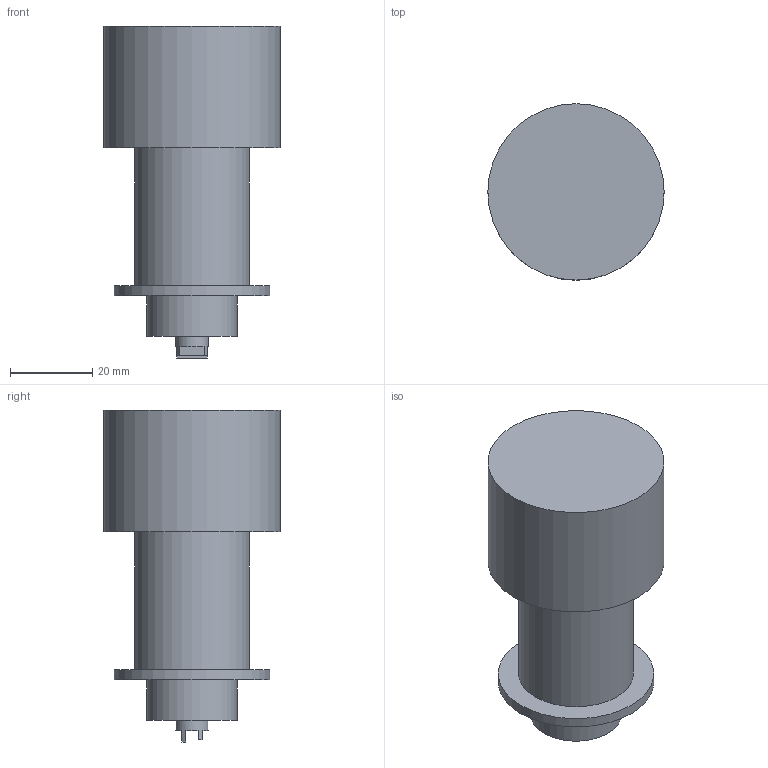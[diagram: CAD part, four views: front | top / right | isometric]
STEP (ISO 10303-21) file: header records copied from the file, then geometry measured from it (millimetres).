
FILE_DESCRIPTION( ( 'Unknown' ), '1' );
FILE_NAME( 'F:/方头/外形尺寸图/电机/3D/光栅电机/14mm光栅电机模型（国产编码器）Y.stp', 'Unknown', ( 'Unknown' ), ( 'Unknown' ), 'XStep 1.0', 'Unknown', ' ' );
FILE_SCHEMA( ( 'CONFIG_CONTROL_DESIGN' ) );
Length unit declared in the file: millimetre
Products named in the file (1): 1
Bounding box: 43 x 43 x 80.96 mm (x, y, z)
Volume: 70582.7 mm3; surface area: 12035.5 mm2
Topology: 1 solids, 1 shells, 19 faces, 40 edges, 27 vertices
Faces by surface type: plane 14, cylinder 5
Full cylindrical faces by diameter (mm): 8 x1, 22 x1, 28 x1, 38 x1, 43 x1
Entity records: 520 total; most frequent: DIRECTION 90, CARTESIAN_POINT 78, ORIENTED_EDGE 66, AXIS2_PLACEMENT_3D 37, EDGE_CURVE 33, EDGE_LOOP 28, VERTEX_POINT 25, FACE_OUTER_BOUND 24
